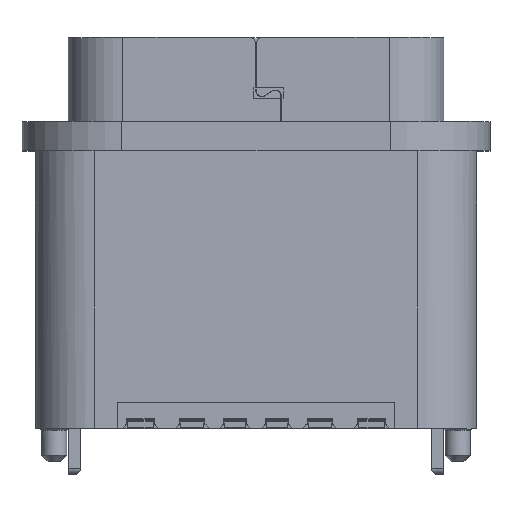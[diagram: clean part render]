
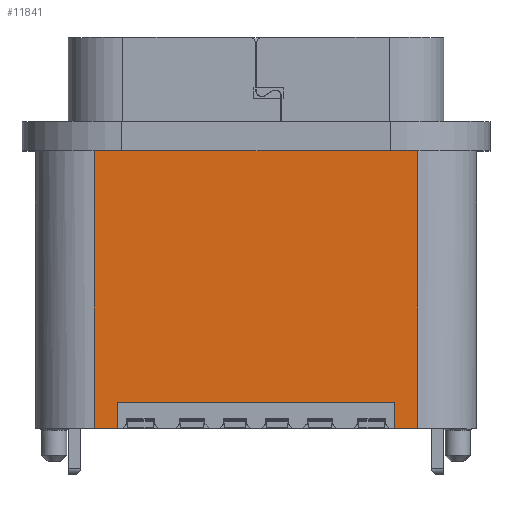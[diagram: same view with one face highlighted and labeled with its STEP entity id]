
A CAD part, top view. The second image highlights one B-rep face of the part: STEP entity #11841.
In plain terms, the highlighted planar face has unit normal (0, 0, 1).
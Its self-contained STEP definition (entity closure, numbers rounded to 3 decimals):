
#1274=DIRECTION('',(1.,0.,0.));
#1275=VECTOR('',#1274,0.55);
#1276=CARTESIAN_POINT('',(3.3,-4.35,2.38));
#1277=LINE('',#1276,#1275);
#1278=DIRECTION('',(0.,-1.,0.));
#1279=VECTOR('',#1278,0.6);
#1280=CARTESIAN_POINT('',(3.3,-3.75,2.38));
#1281=LINE('',#1280,#1279);
#1282=DIRECTION('',(1.,0.,0.));
#1283=VECTOR('',#1282,6.6);
#1284=CARTESIAN_POINT('',(-3.3,-3.75,2.38));
#1285=LINE('',#1284,#1283);
#1286=DIRECTION('',(1.,0.,0.));
#1287=VECTOR('',#1286,0.55);
#1288=CARTESIAN_POINT('',(-3.85,-4.35,2.38));
#1289=LINE('',#1288,#1287);
#1294=DIRECTION('',(0.,-1.,0.));
#1295=VECTOR('',#1294,6.6);
#1296=CARTESIAN_POINT('',(-3.85,2.25,2.38));
#1297=LINE('',#1296,#1295);
#1340=DIRECTION('',(0.,1.,0.));
#1341=VECTOR('',#1340,6.6);
#1342=CARTESIAN_POINT('',(3.85,-4.35,2.38));
#1343=LINE('',#1342,#1341);
#1387=DIRECTION('',(-1.,0.,0.));
#1388=VECTOR('',#1387,7.7);
#1389=CARTESIAN_POINT('',(3.85,2.25,2.38));
#1390=LINE('',#1389,#1388);
#7428=DIRECTION('',(0.,1.,0.));
#7429=VECTOR('',#7428,0.6);
#7430=CARTESIAN_POINT('',(-3.3,-4.35,2.38));
#7431=LINE('',#7430,#7429);
#8021=CARTESIAN_POINT('',(-3.3,-4.35,2.38));
#8022=VERTEX_POINT('',#8021);
#8023=CARTESIAN_POINT('',(-3.85,-4.35,2.38));
#8024=VERTEX_POINT('',#8023);
#8043=CARTESIAN_POINT('',(3.85,-4.35,2.38));
#8045=VERTEX_POINT('',#8043);
#8047=CARTESIAN_POINT('',(3.3,-4.35,2.38));
#8048=VERTEX_POINT('',#8047);
#8049=CARTESIAN_POINT('',(3.3,-3.75,2.38));
#8050=VERTEX_POINT('',#8049);
#8051=CARTESIAN_POINT('',(-3.3,-3.75,2.38));
#8052=VERTEX_POINT('',#8051);
#8053=CARTESIAN_POINT('',(-3.85,2.25,2.38));
#8054=VERTEX_POINT('',#8053);
#8055=CARTESIAN_POINT('',(3.85,2.25,2.38));
#8056=VERTEX_POINT('',#8055);
#11822=CARTESIAN_POINT('',(0.,-1.05,2.38));
#11823=DIRECTION('',(0.,0.,1.));
#11824=DIRECTION('',(1.,0.,0.));
#11825=AXIS2_PLACEMENT_3D('',#11822,#11823,#11824);
#11826=PLANE('',#11825);
#11828=ORIENTED_EDGE('',*,*,#11827,.F.);
#11830=ORIENTED_EDGE('',*,*,#11829,.F.);
#11832=ORIENTED_EDGE('',*,*,#11831,.F.);
#11833=ORIENTED_EDGE('',*,*,#11739,.F.);
#11834=ORIENTED_EDGE('',*,*,#11803,.F.);
#11835=ORIENTED_EDGE('',*,*,#11813,.F.);
#11837=ORIENTED_EDGE('',*,*,#11836,.F.);
#11838=ORIENTED_EDGE('',*,*,#11767,.F.);
#11839=EDGE_LOOP('',(#11828,#11830,#11832,#11833,#11834,#11835,#11837,#11838));
#11840=FACE_OUTER_BOUND('',#11839,.F.);
#11841=ADVANCED_FACE('',(#11840),#11826,.T.);
#11739=EDGE_CURVE('',#8048,#8045,#1277,.T.);
#11767=EDGE_CURVE('',#8024,#8022,#1289,.T.);
#11803=EDGE_CURVE('',#8050,#8048,#1281,.T.);
#11813=EDGE_CURVE('',#8052,#8050,#1285,.T.);
#11827=EDGE_CURVE('',#8054,#8024,#1297,.T.);
#11829=EDGE_CURVE('',#8056,#8054,#1390,.T.);
#11831=EDGE_CURVE('',#8045,#8056,#1343,.T.);
#11836=EDGE_CURVE('',#8022,#8052,#7431,.T.);
